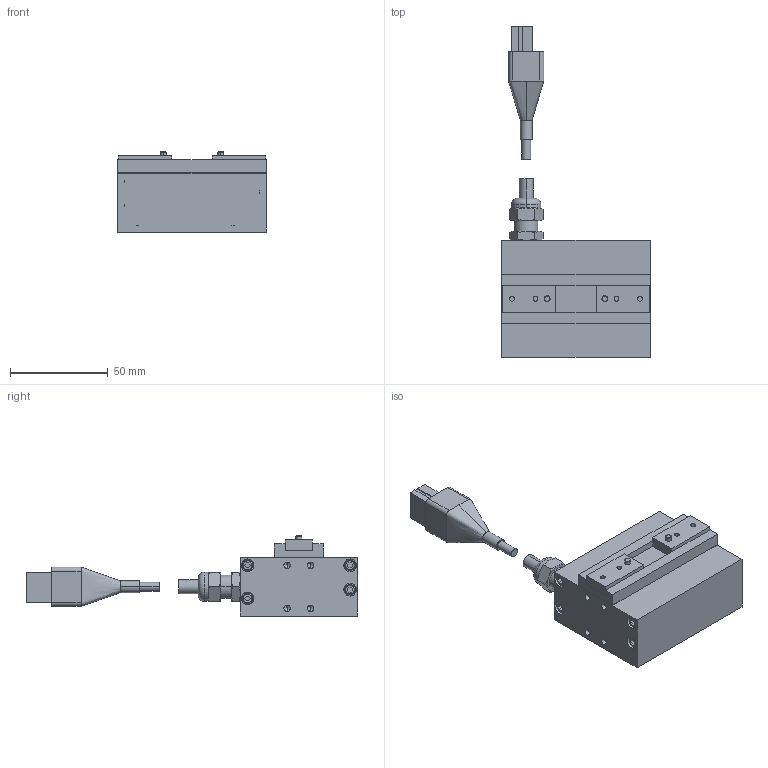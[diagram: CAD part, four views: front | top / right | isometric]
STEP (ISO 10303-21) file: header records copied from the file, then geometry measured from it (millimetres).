
FILE_DESCRIPTION (( 'STEP AP214' ), '1' );
FILE_NAME ('ESG1-FT-2020-P.STEP', '2009-02-12T08:11:35', ( '風音庵' ), ( '' ), 'SwSTEP 2.0', 'SolidWorks 2007', '' );
FILE_SCHEMA (( 'AUTOMOTIVE_DESIGN' ));
Length unit declared in the file: millimetre
Products named in the file (7): ESG1-FT-2020-P; ESG1-FT-2020-P BODY_蹬怮椔; CNNECTOR丂BB丂ASSY_棉太倌; ESG1-FS-2020 FINGER_蹬怮椔; CONNECTOR COVER　BB_ﾃﾞﾌｫﾙﾄ; CONNECTOR　DK-2100D-12R_ﾃﾞﾌｫﾙﾄ; JOINT_蹬怮椔
Assembly tree (7 placements, depth 3):
  ESG1-FT-2020-P
    CNNECTOR丂BB丂ASSY_棉太倌
      CONNECTOR COVER　BB_ﾃﾞﾌｫﾙﾄ
      CONNECTOR　DK-2100D-12R_ﾃﾞﾌｫﾙﾄ
    ESG1-FS-2020 FINGER_蹬怮椔  x2
    JOINT_蹬怮椔
    ESG1-FT-2020-P BODY_蹬怮椔
Bounding box: 76 x 169.39 x 41 mm (x, y, z)
Volume: 160950.4 mm3; surface area: 33096.6 mm2
Topology: 6 solids, 6 shells, 441 faces, 1036 edges, 650 vertices
Faces by surface type: plane 261, cylinder 100, cone 76, bspline 2, torus 2
Entity records: 17345 total; most frequent: CARTESIAN_POINT 2749, DIRECTION 2032, ORIENTED_EDGE 1956, EDGE_CURVE 978, VECTOR 686, LINE 686, AXIS2_PLACEMENT_3D 673, VERTEX_POINT 628
